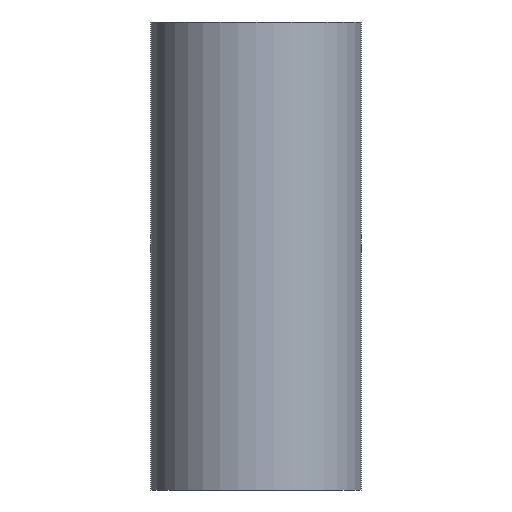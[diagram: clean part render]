
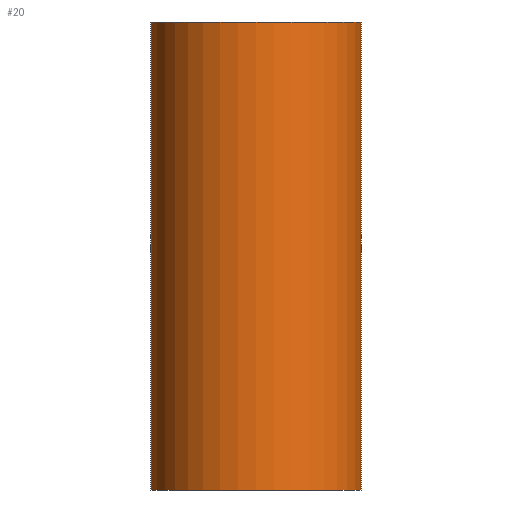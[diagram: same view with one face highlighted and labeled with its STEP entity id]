
A CAD part, front view. The second image highlights one B-rep face of the part: STEP entity #20.
In plain terms, the highlighted cylindrical face has radius 10 mm (diameter 20 mm), a partial arc.
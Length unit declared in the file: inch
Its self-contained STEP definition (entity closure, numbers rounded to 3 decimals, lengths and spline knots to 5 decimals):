
#6 = LINE ( 'NONE', #78, #88 ) ;
#9 = DIRECTION ( 'NONE',  ( 0., 0., -1. ) ) ;
#10 = ORIENTED_EDGE ( 'NONE', *, *, #111, .F. ) ;
#12 = CARTESIAN_POINT ( 'NONE',  ( 0., 0., 1.75 ) ) ;
#20 = ADVANCED_FACE ( 'NONE', ( #86 ), #184, .T. ) ;
#24 = AXIS2_PLACEMENT_3D ( 'NONE', #12, #41, #177 ) ;
#31 = CARTESIAN_POINT ( 'NONE',  ( 0.3937, 0., 1.75 ) ) ;
#41 = DIRECTION ( 'NONE',  ( 0., 0., -1. ) ) ;
#43 = CARTESIAN_POINT ( 'NONE',  ( -0.3937, 0., 0. ) ) ;
#48 = CARTESIAN_POINT ( 'NONE',  ( 0.3937, 0., 1.75 ) ) ;
#50 = CARTESIAN_POINT ( 'NONE',  ( 0., 0., 0. ) ) ;
#62 = EDGE_CURVE ( 'NONE', #175, #136, #167, .T. ) ;
#63 = CARTESIAN_POINT ( 'NONE',  ( -0.3937, 0., 1.75 ) ) ;
#70 = EDGE_LOOP ( 'NONE', ( #10, #212, #180, #103 ) ) ;
#78 = CARTESIAN_POINT ( 'NONE',  ( -0.3937, 0., 1.75 ) ) ;
#82 = VERTEX_POINT ( 'NONE', #31 ) ;
#86 = FACE_OUTER_BOUND ( 'NONE', #70, .T. ) ;
#88 = VECTOR ( 'NONE', #9, 39.37008 ) ;
#93 = CARTESIAN_POINT ( 'NONE',  ( 0.3937, 0., 0. ) ) ;
#95 = DIRECTION ( 'NONE',  ( 0., 0., 1. ) ) ;
#98 = VERTEX_POINT ( 'NONE', #63 ) ;
#101 = AXIS2_PLACEMENT_3D ( 'NONE', #189, #112, #159 ) ;
#103 = ORIENTED_EDGE ( 'NONE', *, *, #62, .T. ) ;
#111 = EDGE_CURVE ( 'NONE', #82, #136, #181, .T. ) ;
#112 = DIRECTION ( 'NONE',  ( 0., 0., 1. ) ) ;
#122 = DIRECTION ( 'NONE',  ( 0., 0., -1. ) ) ;
#131 = EDGE_CURVE ( 'NONE', #98, #82, #154, .T. ) ;
#136 = VERTEX_POINT ( 'NONE', #93 ) ;
#154 = CIRCLE ( 'NONE', #101, 0.3937 ) ;
#155 = VECTOR ( 'NONE', #122, 39.37008 ) ;
#159 = DIRECTION ( 'NONE',  ( 1., 0., 0. ) ) ;
#167 = CIRCLE ( 'NONE', #171, 0.3937 ) ;
#171 = AXIS2_PLACEMENT_3D ( 'NONE', #50, #95, #200 ) ;
#173 = EDGE_CURVE ( 'NONE', #98, #175, #6, .T. ) ;
#175 = VERTEX_POINT ( 'NONE', #43 ) ;
#177 = DIRECTION ( 'NONE',  ( -1., 0., 0. ) ) ;
#180 = ORIENTED_EDGE ( 'NONE', *, *, #173, .T. ) ;
#181 = LINE ( 'NONE', #48, #155 ) ;
#184 = CYLINDRICAL_SURFACE ( 'NONE', #24, 0.3937 ) ;
#189 = CARTESIAN_POINT ( 'NONE',  ( 0., 0., 1.75 ) ) ;
#200 = DIRECTION ( 'NONE',  ( 1., 0., 0. ) ) ;
#212 = ORIENTED_EDGE ( 'NONE', *, *, #131, .F. ) ;
